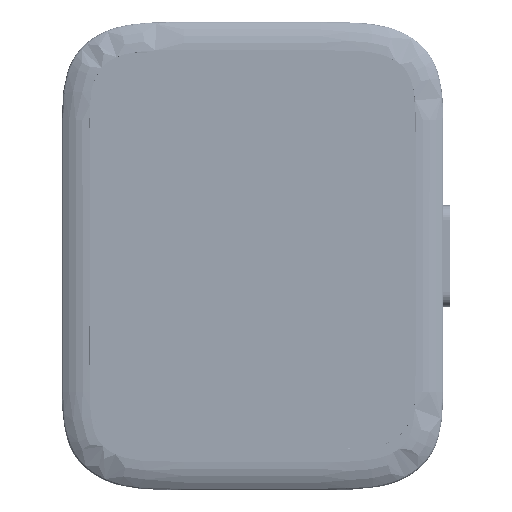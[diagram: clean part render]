
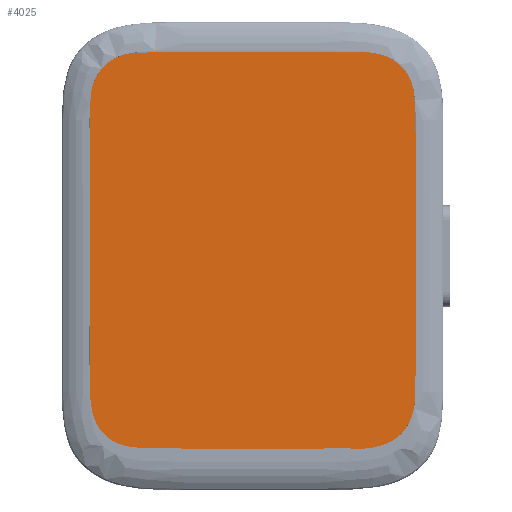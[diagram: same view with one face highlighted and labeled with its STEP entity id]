
A CAD part, top view. The second image highlights one B-rep face of the part: STEP entity #4025.
In plain terms, the highlighted planar face has unit normal (0, 0, 1).
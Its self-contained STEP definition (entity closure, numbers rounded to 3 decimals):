
#316=DIRECTION('',(0.,-1.,0.));
#317=VECTOR('',#316,19.935);
#318=CARTESIAN_POINT('',(-13.927,9.967,-0.05));
#319=LINE('',#318,#317);
#323=DIRECTION('',(1.,0.,0.));
#324=VECTOR('',#323,12.42);
#325=CARTESIAN_POINT('',(-5.786,-17.472,-0.05));
#326=LINE('',#325,#324);
#330=DIRECTION('',(1.,-0.002,0.));
#331=VECTOR('',#330,2.128);
#332=CARTESIAN_POINT('',(-7.914,-17.467,-0.05));
#333=LINE('',#332,#331);
#337=CARTESIAN_POINT('',(-13.929,-9.967,-0.05));
#338=CARTESIAN_POINT('',(-13.929,-10.997,-0.05));
#339=CARTESIAN_POINT('',(-14.013,-12.884,-0.05));
#340=CARTESIAN_POINT('',(-13.479,-15.602,-0.05));
#341=CARTESIAN_POINT('',(-11.52,-17.233,-0.05));
#342=CARTESIAN_POINT('',(-9.559,-17.456,-0.05));
#343=CARTESIAN_POINT('',(-8.349,-17.466,-0.05));
#344=CARTESIAN_POINT('',(-7.914,-17.467,-0.05));
#349=CARTESIAN_POINT('',(-6.423,17.472,-0.05));
#350=CARTESIAN_POINT('',(-6.775,17.472,-0.05));
#351=CARTESIAN_POINT('',(-7.717,17.467,-0.05));
#352=CARTESIAN_POINT('',(-9.366,17.468,-0.05));
#353=CARTESIAN_POINT('',(-11.605,17.245,-0.05));
#354=CARTESIAN_POINT('',(-13.775,15.281,-0.05));
#355=CARTESIAN_POINT('',(-13.957,12.472,-0.05));
#356=CARTESIAN_POINT('',(-13.927,10.717,-0.05));
#357=CARTESIAN_POINT('',(-13.927,9.967,-0.05));
#362=CARTESIAN_POINT('',(14.784,9.967,-0.05));
#363=CARTESIAN_POINT('',(14.783,10.717,-0.05));
#364=CARTESIAN_POINT('',(14.814,12.472,-0.05));
#365=CARTESIAN_POINT('',(14.631,15.281,-0.05));
#366=CARTESIAN_POINT('',(12.461,17.245,-0.05));
#367=CARTESIAN_POINT('',(10.222,17.468,-0.05));
#368=CARTESIAN_POINT('',(8.573,17.468,-0.05));
#369=CARTESIAN_POINT('',(7.632,17.471,-0.05));
#370=CARTESIAN_POINT('',(7.28,17.471,-0.05));
#375=DIRECTION('',(0.003,1.,0.));
#376=VECTOR('',#375,2.192);
#377=CARTESIAN_POINT('',(14.777,7.775,-0.05));
#378=LINE('',#377,#376);
#382=CARTESIAN_POINT('',(8.763,-17.467,-0.05));
#383=CARTESIAN_POINT('',(9.584,-17.553,-0.05));
#384=CARTESIAN_POINT('',(11.369,-17.496,-0.05));
#385=CARTESIAN_POINT('',(13.787,-16.354,-0.05));
#386=CARTESIAN_POINT('',(14.783,-14.038,-0.05));
#387=CARTESIAN_POINT('',(14.762,-12.132,-0.05));
#388=CARTESIAN_POINT('',(14.775,-10.863,-0.05));
#389=CARTESIAN_POINT('',(14.776,-10.236,-0.05));
#390=CARTESIAN_POINT('',(14.776,-9.967,-0.05));
#395=DIRECTION('',(1.,0.002,0.));
#396=VECTOR('',#395,2.128);
#397=CARTESIAN_POINT('',(6.634,-17.472,-0.05));
#398=LINE('',#397,#396);
#509=DIRECTION('',(0.,1.,0.));
#510=VECTOR('',#509,17.742);
#511=CARTESIAN_POINT('',(14.776,-9.967,-0.05));
#512=LINE('',#511,#510);
#3281=DIRECTION('',(-1.,0.,0.));
#3282=VECTOR('',#3281,13.703);
#3283=CARTESIAN_POINT('',(7.28,17.471,-0.05));
#3284=LINE('',#3283,#3282);
#3313=CARTESIAN_POINT('',(-5.786,-17.472,-0.05));
#3314=CARTESIAN_POINT('',(6.634,-17.472,-0.05));
#3315=VERTEX_POINT('',#3313);
#3316=VERTEX_POINT('',#3314);
#3317=CARTESIAN_POINT('',(8.763,-17.467,-0.05));
#3318=VERTEX_POINT('',#3317);
#3319=VERTEX_POINT('',#390);
#3320=CARTESIAN_POINT('',(14.777,7.775,-0.05));
#3321=CARTESIAN_POINT('',(14.784,9.967,-0.05));
#3322=VERTEX_POINT('',#3320);
#3323=VERTEX_POINT('',#3321);
#3324=VERTEX_POINT('',#370);
#3325=VERTEX_POINT('',#349);
#3326=VERTEX_POINT('',#357);
#3327=VERTEX_POINT('',#337);
#3328=VERTEX_POINT('',#344);
#3998=CARTESIAN_POINT('',(0.,0.,-0.05));
#3999=DIRECTION('',(0.,0.,1.));
#4000=DIRECTION('',(1.,0.,0.));
#4001=AXIS2_PLACEMENT_3D('',#3998,#3999,#4000);
#4002=PLANE('',#4001);
#4004=ORIENTED_EDGE('',*,*,#4003,.F.);
#4006=ORIENTED_EDGE('',*,*,#4005,.F.);
#4008=ORIENTED_EDGE('',*,*,#4007,.F.);
#4009=ORIENTED_EDGE('',*,*,#3991,.F.);
#4010=ORIENTED_EDGE('',*,*,#3959,.F.);
#4012=ORIENTED_EDGE('',*,*,#4011,.F.);
#4014=ORIENTED_EDGE('',*,*,#4013,.F.);
#4016=ORIENTED_EDGE('',*,*,#4015,.F.);
#4018=ORIENTED_EDGE('',*,*,#4017,.F.);
#4020=ORIENTED_EDGE('',*,*,#4019,.F.);
#4022=ORIENTED_EDGE('',*,*,#4021,.F.);
#4023=EDGE_LOOP('',(#4004,#4006,#4008,#4009,#4010,#4012,#4014,#4016,#4018,#4020,
#4022));
#4024=FACE_OUTER_BOUND('',#4023,.F.);
#4025=ADVANCED_FACE('',(#4024),#4002,.T.);
#345=B_SPLINE_CURVE_WITH_KNOTS('',3,(#337,#338,#339,#340,#341,#342,#343,#344),
.UNSPECIFIED.,.F.,.F.,(4,1,1,1,1,4),(0.,0.268,0.497,
0.688,0.884,1.),.UNSPECIFIED.);
#358=B_SPLINE_CURVE_WITH_KNOTS('',3,(#349,#350,#351,#352,#353,#354,#355,#356,
#357),.UNSPECIFIED.,.F.,.F.,(4,1,1,1,1,1,4),(0.,0.081,
0.217,0.382,0.589,0.827,1.),
.UNSPECIFIED.);
#371=B_SPLINE_CURVE_WITH_KNOTS('',3,(#362,#363,#364,#365,#366,#367,#368,#369,
#370),.UNSPECIFIED.,.F.,.F.,(4,1,1,1,1,1,4),(0.,0.173,
0.411,0.618,0.783,0.919,1.),
.UNSPECIFIED.);
#391=B_SPLINE_CURVE_WITH_KNOTS('',3,(#382,#383,#384,#385,#386,#387,#388,#389,
#390),.UNSPECIFIED.,.F.,.F.,(4,1,1,1,1,1,4),(0.,0.234,
0.432,0.67,0.837,0.93,1.),
.UNSPECIFIED.);
#3959=EDGE_CURVE('',#3325,#3326,#358,.T.);
#3991=EDGE_CURVE('',#3326,#3327,#319,.T.);
#4003=EDGE_CURVE('',#3315,#3316,#326,.T.);
#4005=EDGE_CURVE('',#3328,#3315,#333,.T.);
#4007=EDGE_CURVE('',#3327,#3328,#345,.T.);
#4011=EDGE_CURVE('',#3324,#3325,#3284,.T.);
#4013=EDGE_CURVE('',#3323,#3324,#371,.T.);
#4015=EDGE_CURVE('',#3322,#3323,#378,.T.);
#4017=EDGE_CURVE('',#3319,#3322,#512,.T.);
#4019=EDGE_CURVE('',#3318,#3319,#391,.T.);
#4021=EDGE_CURVE('',#3316,#3318,#398,.T.);
